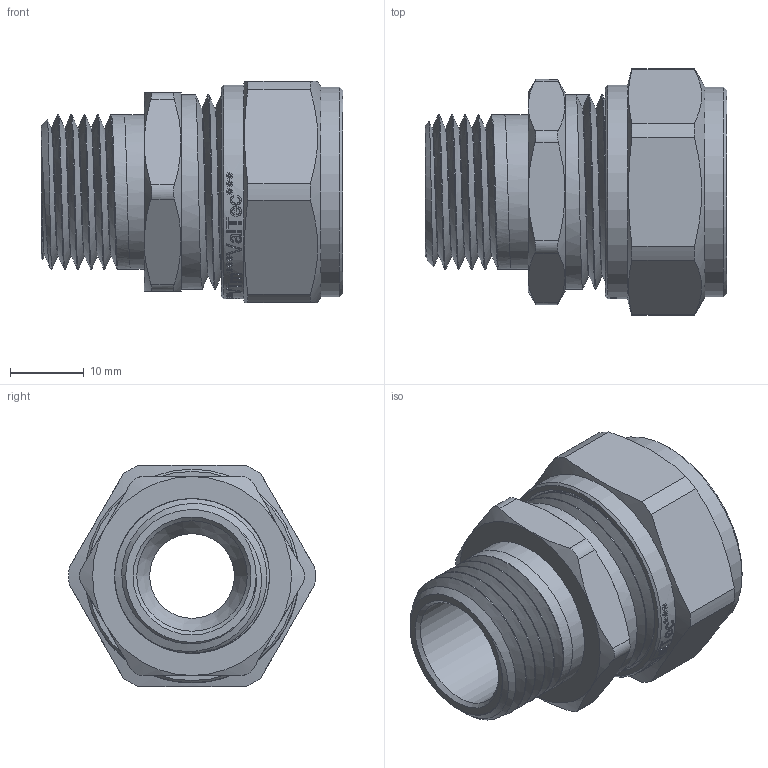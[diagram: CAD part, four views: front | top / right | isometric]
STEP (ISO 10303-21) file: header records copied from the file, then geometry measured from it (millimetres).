
FILE_DESCRIPTION(/* description */ (''),/* implementation_level */ '2;1');
FILE_NAME(/* name */ 'E:\Артём\00000\Работа удаленка\Обжимные фитинги\VTm.301.N.001605.stp',/* time_stamp */ '2020-05-20T15:46:18+03:00',/* author */ ('BeN_GaN'),/* organization */ (''),/* preprocessor_version */ 'ST-DEVELOPER v18',/* originating_system */ 'Autodesk Inventor 2020',/* authorisation */ '');
FILE_SCHEMA (('AUTOMOTIVE_DESIGN { 1 0 10303 214 3 1 1 }'));
Length unit declared in the file: millimetre
Products named in the file (1): VTm.301.N.001605
Bounding box: 40.98 x 33.43 x 30 mm (x, y, z)
Volume: 13107.6 mm3; surface area: 11499.1 mm2
Topology: 1 solids, 2 shells, 664 faces, 1858 edges, 1252 vertices
Faces by surface type: bspline 351, plane 168, cylinder 95, cone 27, torus 23
Full cylindrical faces by diameter (mm): 11.5 x1, 13.4 x2, 15 x1, 15.75 x4, 17.4 x6, 19.986 x4, 20.2 x1, 20.728 x5, 21 x6, 22.8 x2, 23.201 x1, 24.2 x1, 26.4 x3, 28.5 x1, 29 x1
Entity records: 29166 total; most frequent: CARTESIAN_POINT 14348, ORIENTED_EDGE 3716, DIRECTION 1986, EDGE_CURVE 1858, VERTEX_POINT 1252, B_SPLINE_CURVE_WITH_KNOTS 771, LINE 744, VECTOR 744
